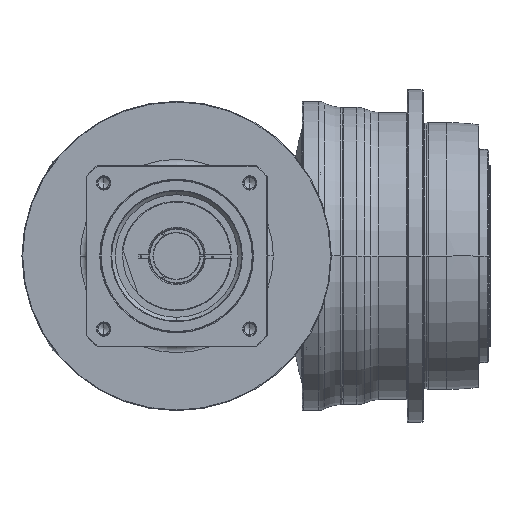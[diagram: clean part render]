
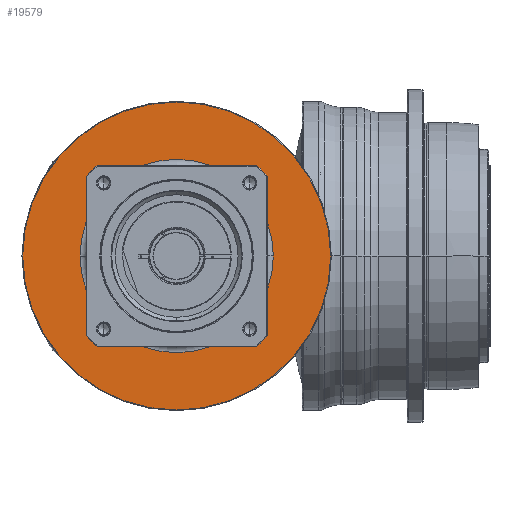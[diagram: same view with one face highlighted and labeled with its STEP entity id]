
A CAD part, front view. The second image highlights one B-rep face of the part: STEP entity #19579.
In plain terms, the highlighted planar face has unit normal (0, -1, 0) as drawn and (1, 0, 0) by its records, which use the part's own axes.
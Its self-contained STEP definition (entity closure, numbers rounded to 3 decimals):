
#19058=CARTESIAN_POINT('',(-7.5,0.,0.));
#19059=DIRECTION('',(-1.,0.,0.));
#19060=DIRECTION('',(0.,-1.,0.));
#19061=AXIS2_PLACEMENT_3D('',#19058,#19059,#19060);
#19063=CARTESIAN_POINT('',(-7.5,0.,0.));
#19064=DIRECTION('',(-1.,0.,0.));
#19065=DIRECTION('',(0.,1.,0.));
#19066=AXIS2_PLACEMENT_3D('',#19063,#19064,#19065);
#19068=CARTESIAN_POINT('',(-7.5,0.,0.));
#19069=DIRECTION('',(-1.,0.,0.));
#19070=DIRECTION('',(0.,-1.,0.));
#19071=AXIS2_PLACEMENT_3D('',#19068,#19069,#19070);
#19073=CARTESIAN_POINT('',(-7.5,0.,0.));
#19074=DIRECTION('',(-1.,0.,0.));
#19075=DIRECTION('',(0.,1.,0.));
#19076=AXIS2_PLACEMENT_3D('',#19073,#19074,#19075);
#19142=CARTESIAN_POINT('',(-7.5,-115.5,0.));
#19143=CARTESIAN_POINT('',(-7.5,115.5,0.));
#19144=VERTEX_POINT('',#19142);
#19145=VERTEX_POINT('',#19143);
#19166=CARTESIAN_POINT('',(-7.5,-72.5,0.));
#19167=CARTESIAN_POINT('',(-7.5,72.5,0.));
#19168=VERTEX_POINT('',#19166);
#19169=VERTEX_POINT('',#19167);
#19564=CARTESIAN_POINT('',(-7.5,0.,0.));
#19565=DIRECTION('',(1.,0.,0.));
#19566=DIRECTION('',(0.,-1.,0.));
#19567=AXIS2_PLACEMENT_3D('',#19564,#19565,#19566);
#19568=PLANE('',#19567);
#19569=ORIENTED_EDGE('',*,*,#19505,.T.);
#19570=ORIENTED_EDGE('',*,*,#19520,.T.);
#19571=EDGE_LOOP('',(#19569,#19570));
#19572=FACE_OUTER_BOUND('',#19571,.F.);
#19574=ORIENTED_EDGE('',*,*,#19573,.F.);
#19576=ORIENTED_EDGE('',*,*,#19575,.F.);
#19577=EDGE_LOOP('',(#19574,#19576));
#19578=FACE_BOUND('',#19577,.F.);
#19579=ADVANCED_FACE('',(#19572,#19578),#19568,.T.);
#19062=CIRCLE('',#19061,72.5);
#19067=CIRCLE('',#19066,72.5);
#19072=CIRCLE('',#19071,115.5);
#19077=CIRCLE('',#19076,115.5);
#19505=EDGE_CURVE('',#19144,#19145,#19072,.T.);
#19520=EDGE_CURVE('',#19145,#19144,#19077,.T.);
#19573=EDGE_CURVE('',#19168,#19169,#19062,.T.);
#19575=EDGE_CURVE('',#19169,#19168,#19067,.T.);
